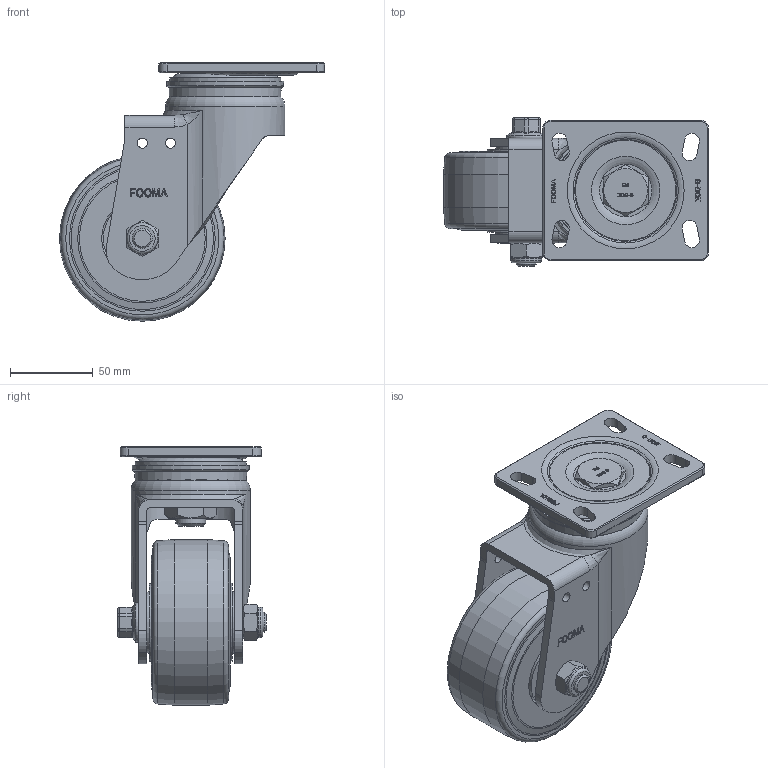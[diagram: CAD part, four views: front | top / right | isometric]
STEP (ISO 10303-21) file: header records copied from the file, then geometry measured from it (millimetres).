
FILE_DESCRIPTION(/* description */ (''),/* implementation_level */ '2;1');
FILE_NAME(/* name */ '\\192.168.10.38\지덕공유\1.기술연구소\1.도면\제품도면\1.양산품\10.PH-SERIES-OK\작성중\PH,PHS,GH-100-BSF _ 브레이크 부분 변경(130브라켓)관련 도면 모음(2D, 3D)\영업부전달_20230630\PH-100-ASF-MCD.stp',/* time_stamp */ '2023-06-30T17:06:04+09:00',/* author */ ('admin'),/* organization */ (''),/* preprocessor_version */ 'ST-DEVELOPER v18.1',/* originating_system */ 'Autodesk Inventor 2021',/* authorisation */ '');
FILE_SCHEMA (('AUTOMOTIVE_DESIGN { 1 0 10303 214 3 1 1 }'));
Length unit declared in the file: millimetre
Products named in the file (1): PH-100-ASF-MCD_Shrinkwrap_1
Bounding box: 160 x 89.5 x 156 mm (x, y, z)
Volume: 586968.6 mm3; surface area: 100043.6 mm2
Topology: 1 solids, 4 shells, 954 faces, 2587 edges, 1699 vertices
Faces by surface type: plane 639, bspline 141, cylinder 78, torus 59, cone 37
Full cylindrical faces by diameter (mm): 6.1 x4, 12 x2, 14.5 x1, 15 x2, 15.2 x2, 18 x1, 18.5 x1, 21 x2, 37 x2, 47 x2, 54.004 x2, 61.999 x1, 67.2 x1, 71.999 x1, 100 x1
Entity records: 32252 total; most frequent: CARTESIAN_POINT 8080, ORIENTED_EDGE 5166, DIRECTION 4148, EDGE_CURVE 2583, LINE 1868, VECTOR 1868, VERTEX_POINT 1699, AXIS2_PLACEMENT_3D 1140
